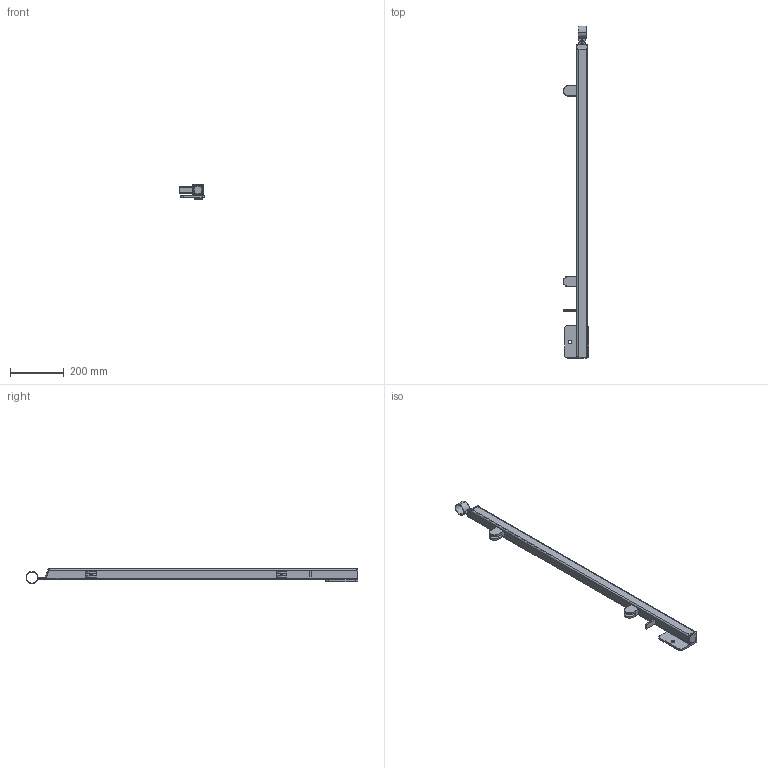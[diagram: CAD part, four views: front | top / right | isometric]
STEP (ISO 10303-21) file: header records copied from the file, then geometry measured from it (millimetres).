
FILE_DESCRIPTION (( 'STEP AP203' ), '1' );
FILE_NAME ('Ståndare KKR 40x40x3 sidomontage glas höger2.STEP', '2014-09-26T06:37:26', ( '' ), ( '' ), 'SwSTEP 2.0', 'SolidWorks 2014', '' );
FILE_SCHEMA (( 'CONFIG_CONTROL_DESIGN' ));
Length unit declared in the file: millimetre
Products named in the file (1): Ståndare KKR 40x40x3 sidomontage glas höger2
Bounding box: 95 x 1236.5 x 56.67 mm (x, y, z)
Volume: 672262.5 mm3; surface area: 395779.4 mm2
Topology: 2 solids, 4 shells, 397 faces, 1016 edges, 619 vertices
Faces by surface type: plane 217, cylinder 144, torus 16, cone 12, bspline 8
Entity records: 12213 total; most frequent: CARTESIAN_POINT 2551, ORIENTED_EDGE 2016, DIRECTION 1998, EDGE_CURVE 1008, VECTOR 666, LINE 666, AXIS2_PLACEMENT_3D 666, VERTEX_POINT 619
